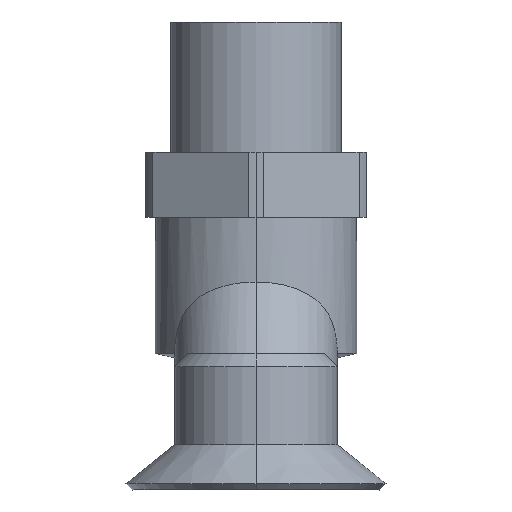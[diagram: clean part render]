
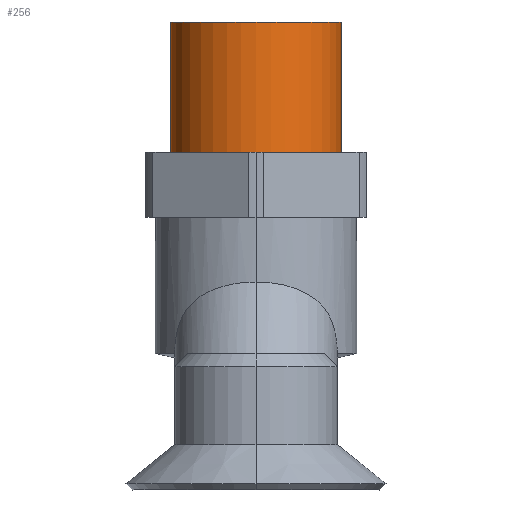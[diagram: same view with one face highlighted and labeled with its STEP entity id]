
A CAD part, left-side view. The second image highlights one B-rep face of the part: STEP entity #256.
In plain terms, the highlighted cylindrical face has radius 6.58 mm (diameter 13.16 mm), a partial arc.
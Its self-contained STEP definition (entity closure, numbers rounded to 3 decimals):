
#256=ADVANCED_FACE('NONE',(#531),#532,.T.);
#531=FACE_OUTER_BOUND('',#826,.T.);
#532=CYLINDRICAL_SURFACE('',#827,6.58);
#826=EDGE_LOOP('',(#1508,#1509,#1510,#1511));
#827=AXIS2_PLACEMENT_3D('',#1512,#1513,#1514);
#1508=ORIENTED_EDGE('',*,*,#1911,.F.);
#1509=ORIENTED_EDGE('',*,*,#1914,.T.);
#1510=ORIENTED_EDGE('',*,*,#1938,.T.);
#1511=ORIENTED_EDGE('',*,*,#1915,.F.);
#1512=CARTESIAN_POINT('',(0.,0.,10.0));
#1513=DIRECTION('',(0.,0.,-1.0));
#1514=DIRECTION('',(0.,-1.0,0.));
#1911=EDGE_CURVE('NONE',#2321,#2320,#2323,.T.);
#1914=EDGE_CURVE('NONE',#2321,#2326,#2327,.T.);
#1915=EDGE_CURVE('NONE',#2320,#2328,#2329,.T.);
#1938=EDGE_CURVE('NONE',#2326,#2328,#2354,.T.);
#2320=VERTEX_POINT('NONE',#3055);
#2321=VERTEX_POINT('NONE',#3056);
#2323=CIRCLE('',#3058,6.58);
#2326=VERTEX_POINT('NONE',#3061);
#2327=LINE('',#3062,#3063);
#2328=VERTEX_POINT('NONE',#3064);
#2329=LINE('',#3065,#3066);
#2354=CIRCLE('',#3104,6.58);
#3055=CARTESIAN_POINT('',(0.,-6.58,10.0));
#3056=CARTESIAN_POINT('',(0.,6.58,10.0));
#3058=AXIS2_PLACEMENT_3D('',#3439,#3440,#3441);
#3061=CARTESIAN_POINT('',(0.,6.58,0.));
#3062=CARTESIAN_POINT('',(0.,6.58,10.0));
#3063=VECTOR('',#3445,1000.0);
#3064=CARTESIAN_POINT('',(0.,-6.58,0.));
#3065=CARTESIAN_POINT('',(0.,-6.58,10.0));
#3066=VECTOR('',#3446,1000.0);
#3104=AXIS2_PLACEMENT_3D('',#3466,#3467,#3468);
#3439=CARTESIAN_POINT('',(0.,0.,10.0));
#3440=DIRECTION('',(0.,0.,1.0));
#3441=DIRECTION('',(0.,1.0,0.0));
#3445=DIRECTION('',(0.,0.,-1.0));
#3446=DIRECTION('',(0.,0.,-1.0));
#3466=CARTESIAN_POINT('',(0.,0.,0.0));
#3467=DIRECTION('',(0.,0.,1.0));
#3468=DIRECTION('',(0.,-1.0,0.));
